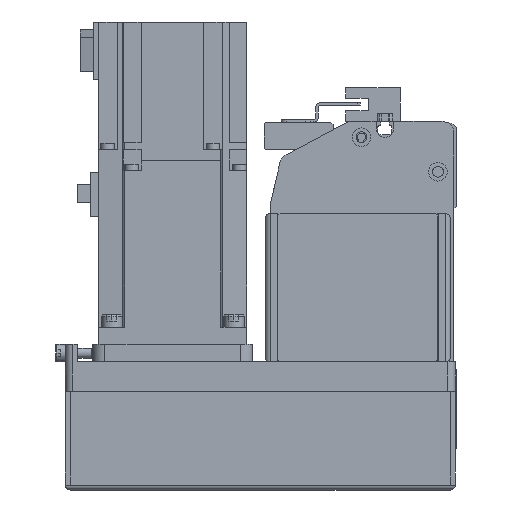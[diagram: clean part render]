
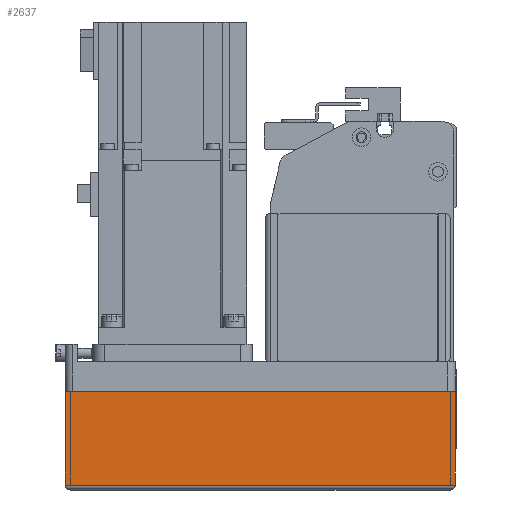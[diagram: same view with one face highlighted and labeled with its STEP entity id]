
A CAD part, left-side view. The second image highlights one B-rep face of the part: STEP entity #2637.
In plain terms, the highlighted planar face has unit normal (-1, 0, 0) as drawn and (0, -1, 0) by its records, which use the part's own axes.
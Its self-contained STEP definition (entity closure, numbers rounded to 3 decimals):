
#2637 = ADVANCED_FACE( '', ( #5561 ), #5562, .T. );
#5561 = FACE_OUTER_BOUND( '', #8682, .T. );
#5562 = PLANE( '', #8683 );
#8682 = EDGE_LOOP( '', ( #16059, #16060, #16061, #16062 ) );
#8683 = AXIS2_PLACEMENT_3D( '', #16063, #16064, #16065 );
#16059 = ORIENTED_EDGE( '', *, *, #18555, .F. );
#16060 = ORIENTED_EDGE( '', *, *, #20327, .F. );
#16061 = ORIENTED_EDGE( '', *, *, #19847, .T. );
#16062 = ORIENTED_EDGE( '', *, *, #20486, .T. );
#16063 = CARTESIAN_POINT( '', ( -158., -39., -12.1 ) );
#16064 = DIRECTION( '', ( 0., -1., 0. ) );
#16065 = DIRECTION( '', ( 0., 0., -1. ) );
#18555 = EDGE_CURVE( '', #22443, #22445, #22446, .T. );
#19847 = EDGE_CURVE( '', #24470, #24425, #24472, .T. );
#20327 = EDGE_CURVE( '', #24470, #22443, #25099, .T. );
#20486 = EDGE_CURVE( '', #24425, #22445, #25285, .T. );
#22443 = VERTEX_POINT( '', #27938 );
#22445 = VERTEX_POINT( '', #27941 );
#22446 = LINE( '', #27942, #27943 );
#24425 = VERTEX_POINT( '', #30850 );
#24470 = VERTEX_POINT( '', #30924 );
#24472 = LINE( '', #30927, #30928 );
#25099 = LINE( '', #31880, #31881 );
#25285 = LINE( '', #32171, #32172 );
#27938 = CARTESIAN_POINT( '', ( 0., -39., -12.1 ) );
#27941 = CARTESIAN_POINT( '', ( 0., -39., -50. ) );
#27942 = CARTESIAN_POINT( '', ( 0., -39., -12.1 ) );
#27943 = VECTOR( '', #34118, 1000. );
#30850 = CARTESIAN_POINT( '', ( -158., -39., -50. ) );
#30924 = CARTESIAN_POINT( '', ( -158., -39., -12.1 ) );
#30927 = CARTESIAN_POINT( '', ( -158., -39., -12.1 ) );
#30928 = VECTOR( '', #35708, 1000. );
#31880 = CARTESIAN_POINT( '', ( -158., -39., -12.1 ) );
#31881 = VECTOR( '', #36197, 1000. );
#32171 = CARTESIAN_POINT( '', ( -158., -39., -50. ) );
#32172 = VECTOR( '', #36342, 1000. );
#34118 = DIRECTION( '', ( 0., 0., -1. ) );
#35708 = DIRECTION( '', ( 0., 0., -1. ) );
#36197 = DIRECTION( '', ( 1., 0., 0. ) );
#36342 = DIRECTION( '', ( 1., 0., 0. ) );
